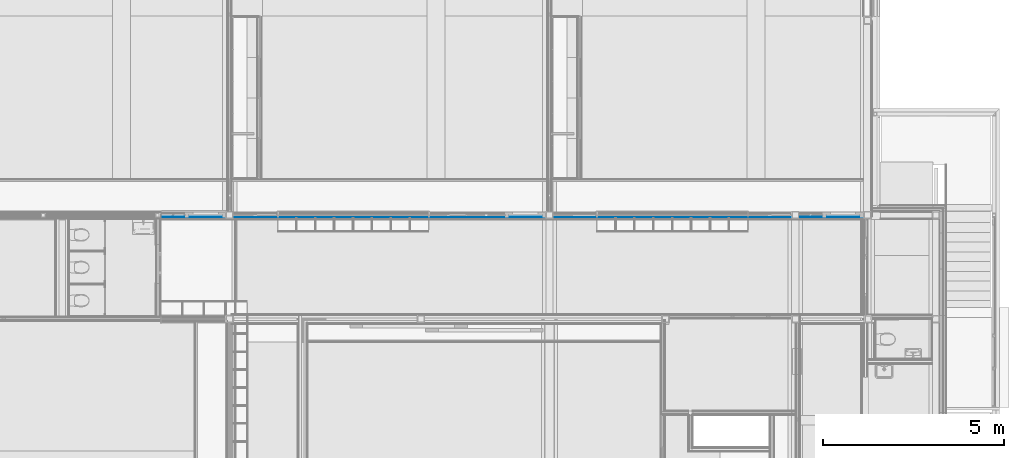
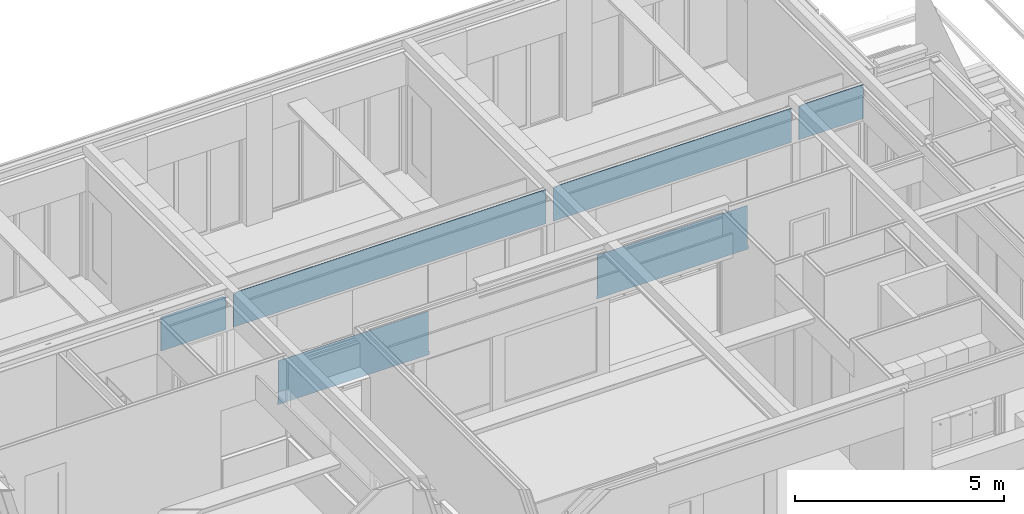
# One storey, part 33 of 165: 1 building element part, 14 openings, 1 element without a shape of its own.
"""IFC2X3 building model written with IfcOpenShell, lengths in millimetres."""

from ifc_helpers import new_model, entity, si_unit, converted_unit, derived_unit, money_unit, direction, frame, origin_with_axes, place, context, subcontext, project, spatial, faceted_brep, material, type_object, element, aggregate, save


model = new_model("IFC2X3")

# Units and contexts
model_context = context("Model", 3, precision=0.01, world=origin_with_axes(), true_north=direction((0.0, 1.0)))
body_context = subcontext(model_context, "Body", "Model", "MODEL_VIEW")
ifc_project = project(units=[si_unit("LENGTHUNIT", "METRE", prefix="MILLI"), si_unit("AREAUNIT", "SQUARE_METRE"), si_unit("VOLUMEUNIT", "CUBIC_METRE"), converted_unit("PLANEANGLEUNIT", "DEGREE", entity("IfcPlaneAngleMeasure", 0.0174532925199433), si_unit("PLANEANGLEUNIT", "RADIAN"), dimensions=[0, 0, 0, 0, 0, 0, 0]), money_unit("EUR"), converted_unit("TIMEUNIT", "Year", entity("IfcTimeMeasure", 31556926.0), si_unit("TIMEUNIT", "SECOND"), dimensions=[0, 0, 1, 0, 0, 0, 0]), si_unit("MASSUNIT", "GRAM", prefix="KILO"), si_unit("THERMODYNAMICTEMPERATUREUNIT", "DEGREE_CELSIUS"), si_unit("LUMINOUSINTENSITYUNIT", "LUMEN"), si_unit("ENERGYUNIT", "JOULE", prefix="MEGA"), derived_unit("THERMALCONDUCTANCEUNIT", [(si_unit("POWERUNIT", "WATT"), 1), (si_unit("LENGTHUNIT", "METRE"), -1), (si_unit("THERMODYNAMICTEMPERATUREUNIT", "KELVIN"), -1)]), derived_unit("SPECIFICHEATCAPACITYUNIT", [(si_unit("ENERGYUNIT", "JOULE"), 1), (si_unit("MASSUNIT", "GRAM", prefix="KILO"), -1), (si_unit("THERMODYNAMICTEMPERATUREUNIT", "KELVIN"), -1)]), derived_unit("MASSDENSITYUNIT", [(si_unit("MASSUNIT", "GRAM", prefix="KILO"), 1), (si_unit("VOLUMEUNIT", "CUBIC_METRE"), -1)])], contexts=[model_context])

# Site, building, storey
site_placement = place(None, origin_with_axes())
site = spatial("IfcSite", under=ifc_project, at=site_placement, Name="Site", CompositionType="ELEMENT")
building_placement = place(site_placement, origin_with_axes())
building = spatial("IfcBuilding", under=site, at=building_placement, Name="Naam gebouw", CompositionType="ELEMENT")
storey_placement = place(building_placement, origin_with_axes())
storey = spatial("IfcBuildingStorey", under=building, at=storey_placement, Name="Begane grond", CompositionType="ELEMENT", Elevation=0.0)

# Proxy, openings, building element part
building_element_proxy_type = type_object("IfcBuildingElementProxyType", Name="22 Metal stud 125 gips 125", PredefinedType="NOTDEFINED")
proxy_placement = place(storey_placement, frame((6940.0, 22324.99474661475, -100.0), z_axis=(0.0, 0.0, 1.0), x_axis=(0.9999999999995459, -9.530261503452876e-07, 0.0)))
proxy = element("IfcBuildingElementProxy", 1, at=proxy_placement, inside=storey, type_object=building_element_proxy_type, Name="_Wand-x")
opening_1_placement = place(proxy_placement, frame((11459.99904000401, 0.0, 100.0), z_axis=(0.0, 0.0, 1.0), x_axis=(1.0, 0.0, 0.0)))
element("IfcOpeningElement", 2, at=opening_1_placement, cuts=proxy, Name="_B.01", context=body_context, shape_type="Brep", body=[
    faceted_brep([(600.0000000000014, -12.50000000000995, -100.0000000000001), (600.0000000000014, -12.50000000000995, 2600.0), (600.0000000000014, -63.51853254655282, 2600.0), (600.0000000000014, -63.51853254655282, -100.0000000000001), (600.0000000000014, 63.51853254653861, -100.0000000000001), (600.0000000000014, 63.51853254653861, 2600.0), (-599.9999999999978, -12.50000000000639, 2600.0), (-599.9999999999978, -63.51853254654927, 2600.0), (-600.0000000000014, 63.51853254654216, 2600.0), (-599.9999999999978, -63.51853254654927, -100.0000000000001), (-599.9999999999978, -12.50000000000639, -100.0000000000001), (-600.0000000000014, 63.51853254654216, -100.0000000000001)], [[[0, 1, 2, 3]], [[1, 0, 4, 5]], [[6, 7, 2, 1, 5, 8]], [[7, 9, 3, 2]], [[0, 3, 9, 10, 11, 4]], [[5, 4, 11, 8]], [[6, 10, 9, 7]], [[10, 6, 8, 11]]]),
])
opening_2_placement = place(proxy_placement, frame((7954.999824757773, 0.0, 100.0), z_axis=(0.0, 0.0, 1.0), x_axis=(1.0, 0.0, 0.0)))
element("IfcOpeningElement", 3, at=opening_2_placement, cuts=proxy, Name="_B.06", context=body_context, shape_type="Brep", body=[
    faceted_brep([(524.9998247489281, -12.50000000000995, -100.0000000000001), (524.9998247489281, -12.50000000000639, 2600.0), (524.9998247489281, -63.51853254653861, 2600.0), (524.9998247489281, -63.51853254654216, -100.0000000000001), (524.9998247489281, 63.5185325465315, -100.0000000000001), (524.9998247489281, 63.51853254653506, 2600.0), (-524.9998247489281, -12.50000000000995, 2600.0), (-524.9998247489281, -63.51853254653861, 2600.0), (-524.9998247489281, 63.51853254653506, 2600.0), (-524.9998247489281, -63.51853254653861, -100.0000000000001), (-524.9998247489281, -12.50000000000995, -100.0000000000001), (-524.9998247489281, 63.51853254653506, -100.0000000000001)], [[[0, 1, 2, 3]], [[1, 0, 4, 5]], [[6, 7, 2, 1, 5, 8]], [[7, 9, 3, 2]], [[0, 3, 9, 10, 11, 4]], [[5, 4, 11, 8]], [[6, 10, 9, 7]], [[10, 6, 8, 11]]]),
])
opening_3_placement = place(proxy_placement, frame((16859.99904000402, 0.0, 100.0), z_axis=(0.0, 0.0, 1.0), x_axis=(1.0, 0.0, 0.0)))
element("IfcOpeningElement", 4, at=opening_3_placement, cuts=proxy, Name="_B.01", context=body_context, shape_type="Brep", body=[
    faceted_brep([(599.9999999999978, -12.50000000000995, -100.0000000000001), (599.9999999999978, -12.50000000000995, 2600.0), (599.9999999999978, -63.51853254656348, 2600.0), (599.9999999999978, -63.51853254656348, -100.0000000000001), (599.9999999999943, 63.5185325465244, -100.0000000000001), (599.9999999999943, 63.5185325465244, 2600.0), (-600.0000000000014, -12.50000000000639, 2600.0), (-600.0000000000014, -63.51853254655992, 2600.0), (-600.0000000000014, 63.51853254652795, 2600.0), (-600.0000000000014, -63.51853254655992, -100.0000000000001), (-600.0000000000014, -12.50000000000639, -100.0000000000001), (-600.0000000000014, 63.51853254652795, -100.0000000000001)], [[[0, 1, 2, 3]], [[1, 0, 4, 5]], [[6, 7, 2, 1, 5, 8]], [[7, 9, 3, 2]], [[0, 3, 9, 10, 11, 4]], [[5, 4, 11, 8]], [[6, 10, 9, 7]], [[10, 6, 8, 11]]]),
])
opening_4_placement = place(proxy_placement, frame((13109.999040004, 0.0, 1300.0), z_axis=(0.0, 0.0, 1.0), x_axis=(1.0, 0.0, 0.0)))
element("IfcOpeningElement", 5, at=opening_4_placement, cuts=proxy, Name="_C.01", context=body_context, shape_type="Brep", body=[
    faceted_brep([(1049.999999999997, -12.50000000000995, 0.0), (1049.999999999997, -12.50000000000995, 1400.0), (1049.999999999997, -63.51853254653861, 1400.0), (1049.999999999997, -63.51853254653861, 0.0), (1049.999999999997, 63.51853254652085, 0.0), (1049.999999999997, 63.51853254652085, 1400.0), (-1049.99999999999, -12.50000000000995, 1400.0), (-1049.999999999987, -63.51853254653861, 1400.0), (-1049.99999999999, 63.5185325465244, 1400.0), (-1049.999999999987, -63.51853254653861, 0.0), (-1049.99999999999, -12.50000000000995, 0.0), (-1049.99999999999, 63.5185325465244, 0.0)], [[[0, 1, 2, 3]], [[1, 0, 4, 5]], [[6, 7, 2, 1, 5, 8]], [[7, 9, 3, 2]], [[0, 3, 9, 10, 11, 4]], [[5, 4, 11, 8]], [[6, 10, 9, 7]], [[10, 6, 8, 11]]]),
])
opening_5_placement = place(proxy_placement, frame((15209.99904000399, 0.0, 1300.000000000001), z_axis=(0.0, 0.0, 1.0), x_axis=(1.0, 0.0, 0.0)))
element("IfcOpeningElement", 6, at=opening_5_placement, cuts=proxy, Name="_C.01", context=body_context, shape_type="Brep", body=[
    faceted_brep([(1050.000000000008, -12.5000000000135, 0.0), (1050.000000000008, -12.5000000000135, 1400.0), (1050.000000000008, -63.51853254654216, 1400.0), (1050.000000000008, -63.51853254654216, 0.0), (1050.000000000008, 63.51853254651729, 0.0), (1050.000000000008, 63.51853254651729, 1400.0), (-1050.000000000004, -12.50000000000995, 1400.0), (-1050.000000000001, -63.51853254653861, 1400.0), (-1050.000000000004, 63.51853254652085, 1400.0), (-1050.000000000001, -63.51853254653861, 0.0), (-1050.000000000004, -12.50000000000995, 0.0), (-1050.000000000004, 63.51853254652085, 0.0)], [[[0, 1, 2, 3]], [[1, 0, 4, 5]], [[6, 7, 2, 1, 5, 8]], [[7, 9, 3, 2]], [[0, 3, 9, 10, 11, 4]], [[5, 4, 11, 8]], [[6, 10, 9, 7]], [[10, 6, 8, 11]]]),
])
opening_6_placement = place(proxy_placement, frame((2620.000000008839, 0.0, 100.0), z_axis=(0.0, 0.0, 1.0), x_axis=(1.0, 0.0, 0.0)))
element("IfcOpeningElement", 7, at=opening_6_placement, cuts=proxy, Name="_B.03", context=body_context, shape_type="Brep", body=[
    faceted_brep([(610.0000000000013, -12.50000000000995, -100.0000000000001), (610.0000000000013, -12.50000000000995, 2600.0), (610.0000000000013, -63.51853254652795, 2600.0), (610.0000000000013, -63.51853254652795, -100.0000000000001), (610.0000000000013, 63.51853254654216, -100.0000000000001), (610.0000000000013, 63.51853254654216, 2600.0), (-610.0000000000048, -12.50000000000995, 2600.0), (-610.0000000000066, -63.51853254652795, 2600.0), (-610.0000000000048, 63.51853254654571, 2600.0), (-610.0000000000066, -63.51853254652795, -100.0000000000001), (-610.0000000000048, -12.50000000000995, -100.0000000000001), (-610.0000000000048, 63.51853254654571, -100.0000000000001)], [[[0, 1, 2, 3]], [[1, 0, 4, 5]], [[6, 7, 2, 1, 5, 8]], [[7, 9, 3, 2]], [[0, 3, 9, 10, 11, 4]], [[5, 4, 11, 8]], [[6, 10, 9, 7]], [[10, 6, 8, 11]]]),
])
opening_7_placement = place(proxy_placement, frame((4280.000000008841, 0.0, 1300.0), z_axis=(0.0, 0.0, 1.0), x_axis=(1.0, 0.0, 0.0)))
element("IfcOpeningElement", 8, at=opening_7_placement, cuts=proxy, Name="_C.01", context=body_context, shape_type="Brep", body=[
    faceted_brep([(1049.999999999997, -12.50000000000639, 0.0), (1049.999999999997, -12.50000000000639, 1400.0), (1049.999999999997, -63.5185325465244, 1400.0), (1049.999999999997, -63.5185325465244, 0.0), (1049.999999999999, 63.51853254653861, 0.0), (1049.999999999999, 63.51853254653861, 1400.0), (-1049.999999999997, -12.50000000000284, 1400.0), (-1049.999999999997, -63.51853254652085, 1400.0), (-1049.999999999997, 63.51853254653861, 1400.0), (-1049.999999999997, -63.51853254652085, 0.0), (-1049.999999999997, -12.50000000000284, 0.0), (-1049.999999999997, 63.51853254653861, 0.0)], [[[0, 1, 2, 3]], [[1, 0, 4, 5]], [[6, 7, 2, 1, 5, 8]], [[7, 9, 3, 2]], [[0, 3, 9, 10, 11, 4]], [[5, 4, 11, 8]], [[6, 10, 9, 7]], [[10, 6, 8, 11]]]),
])
opening_8_placement = place(proxy_placement, frame((9004.999474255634, 0.0, 100.0), z_axis=(0.0, 0.0, 1.0), x_axis=(1.0, 0.0, 0.0)))
element("IfcOpeningElement", 9, at=opening_8_placement, cuts=proxy, Name="_B.06", context=body_context, shape_type="Brep", body=[
    faceted_brep([(524.9998247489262, -12.50000000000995, -100.0000000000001), (524.9998247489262, -12.50000000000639, 2600.0), (524.9998247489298, -63.51853254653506, 2600.0), (524.9998247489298, -63.51853254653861, -100.0000000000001), (524.9998247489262, 63.51853254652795, -100.0000000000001), (524.9998247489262, 63.5185325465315, 2600.0), (-524.9998247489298, -12.50000000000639, 2600.0), (-524.9998247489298, -63.51853254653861, 2600.0), (-524.9998247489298, 63.5185325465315, 2600.0), (-524.9998247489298, -63.51853254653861, -100.0000000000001), (-524.9998247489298, -12.50000000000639, -100.0000000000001), (-524.9998247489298, 63.5185325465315, -100.0000000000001)], [[[0, 1, 2, 3]], [[1, 0, 4, 5]], [[6, 7, 2, 1, 5, 8]], [[7, 9, 3, 2]], [[0, 3, 9, 10, 11, 4]], [[5, 4, 11, 8]], [[6, 10, 9, 7]], [[10, 6, 8, 11]]]),
])
opening_9_placement = place(proxy_placement, frame((17987.99955956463, 0.0, 100.0), z_axis=(0.0, 0.0, 1.0), x_axis=(1.0, 0.0, 0.0)))
element("IfcOpeningElement", 10, at=opening_9_placement, cuts=proxy, Name="_B.09", context=body_context, shape_type="Brep", body=[
    faceted_brep([(-328.0004950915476, 12.49999999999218, -100.0000000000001), (-328.0004950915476, 12.49999999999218, 2600.0), (-328.0004950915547, 63.51853254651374, 2600.0), (-328.0004950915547, 63.51853254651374, -100.0000000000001), (-328.0004950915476, -63.51853254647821, -100.0000000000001), (-328.0004950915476, -63.51853254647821, 2600.0), (328.0004950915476, 12.49999999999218, 2600.0), (328.0004950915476, 63.51853254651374, 2600.0), (328.0004950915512, -63.51853254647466, 2600.0), (328.0004950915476, 63.51853254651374, -100.0000000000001), (328.0004950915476, 12.49999999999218, -100.0000000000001), (328.0004950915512, -63.51853254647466, -100.0000000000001)], [[[0, 1, 2, 3]], [[1, 0, 4, 5]], [[6, 7, 2, 1, 5, 8]], [[7, 9, 3, 2]], [[0, 3, 9, 10, 11, 4]], [[5, 4, 11, 8]], [[6, 10, 9, 7]], [[10, 6, 8, 11]]]),
])
opening_10_placement = place(proxy_placement, frame((18881.00000000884, 0.0, 100.0), z_axis=(0.0, 0.0, 1.0), x_axis=(1.0, 0.0, 0.0)))
element("IfcOpeningElement", 11, at=opening_10_placement, cuts=proxy, Name="_01.01", context=body_context, shape_type="Brep", body=[
    faceted_brep([(-564.9999999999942, -63.51853254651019, 2600.0), (-564.9999999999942, -63.51853254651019, -100.0000000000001), (565.0000000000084, -63.51853254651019, -100.0000000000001), (565.0000000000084, -63.51853254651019, 2600.0), (-564.9999999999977, 63.51853254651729, 2600.0), (-564.9999999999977, 63.51853254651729, -100.0000000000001), (565.0000000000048, 63.51853254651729, -100.0000000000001), (565.0000000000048, 63.51853254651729, 2600.0)], [[[0, 1, 2, 3]], [[4, 5, 1, 0]], [[5, 6, 2, 1]], [[6, 7, 3, 2]], [[7, 4, 0, 3]], [[6, 5, 4, 7]]]),
])
opening_11_placement = place(proxy_placement, frame((10094.99953887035, 0.0, 100.0), z_axis=(0.0, 0.0, 1.0), x_axis=(1.0, 0.0, 0.0)))
element("IfcOpeningElement", 12, at=opening_11_placement, cuts=proxy, Name="_01.01", context=body_context, shape_type="Brep", body=[
    faceted_brep([(-564.9999999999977, -63.51853254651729, 2600.0), (-564.9999999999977, -63.51853254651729, -100.0000000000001), (565.0000000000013, -63.51853254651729, -100.0000000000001), (565.0000000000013, -63.51853254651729, 2600.0), (-565.0000000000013, 63.51853254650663, 2600.0), (-565.0000000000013, 63.51853254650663, -100.0000000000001), (565.0000000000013, 63.51853254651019, -100.0000000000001), (565.0000000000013, 63.51853254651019, 2600.0)], [[[0, 1, 2, 3]], [[4, 5, 1, 0]], [[5, 6, 2, 1]], [[6, 7, 3, 2]], [[7, 4, 0, 3]], [[6, 5, 4, 7]]]),
])
opening_12_placement = place(proxy_placement, frame((6380.000000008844, 0.0, 1300.0), z_axis=(0.0, 0.0, 1.0), x_axis=(1.0, 0.0, 0.0)))
element("IfcOpeningElement", 13, at=opening_12_placement, cuts=proxy, Name="_C.01", context=body_context, shape_type="Brep", body=[
    faceted_brep([(1050.000000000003, -12.50000000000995, 0.0), (1050.000000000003, -12.50000000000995, 1400.0), (1050.000000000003, -63.51853254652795, 1400.0), (1050.000000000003, -63.51853254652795, 0.0), (1050.000000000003, 63.51853254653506, 0.0), (1050.000000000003, 63.51853254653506, 1400.0), (-1050.000000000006, -12.50000000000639, 1400.0), (-1050.000000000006, -63.5185325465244, 1400.0), (-1050.000000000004, 63.51853254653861, 1400.0), (-1050.000000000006, -63.5185325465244, 0.0), (-1050.000000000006, -12.50000000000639, 0.0), (-1050.000000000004, 63.51853254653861, 0.0)], [[[0, 1, 2, 3]], [[1, 0, 4, 5]], [[6, 7, 2, 1, 5, 8]], [[7, 9, 3, 2]], [[0, 3, 9, 10, 11, 4]], [[5, 4, 11, 8]], [[6, 10, 9, 7]], [[10, 6, 8, 11]]]),
])
opening_13_placement = place(proxy_placement, frame((1245.000071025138, 0.0, 100.0), z_axis=(0.0, 0.0, 1.0), x_axis=(1.0, 0.0, 0.0)))
element("IfcOpeningElement", 14, at=opening_13_placement, cuts=proxy, Name="_01.01", context=body_context, shape_type="Brep", body=[
    faceted_brep([(-565.0000000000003, -63.51853254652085, 2600.0), (-565.0000000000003, -63.51853254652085, -100.0000000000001), (564.9999999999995, -63.51853254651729, -100.0000000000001), (564.9999999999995, -63.51853254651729, 2600.0), (-565.0000000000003, 63.51853254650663, 2600.0), (-565.0000000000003, 63.51853254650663, -100.0000000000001), (564.9999999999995, 63.51853254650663, -100.0000000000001), (564.9999999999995, 63.51853254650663, 2600.0)], [[[0, 1, 2, 3]], [[4, 5, 1, 0]], [[5, 6, 2, 1]], [[6, 7, 3, 2]], [[7, 4, 0, 3]], [[6, 5, 4, 7]]]),
])
opening_14_placement = place(proxy_placement, frame((340.0001105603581, 0.0, 100.0), z_axis=(0.0, 0.0, 1.0), x_axis=(1.0, 0.0, 0.0)))
element("IfcOpeningElement", 15, at=opening_14_placement, cuts=proxy, Name="_B.07", context=body_context, shape_type="Brep", body=[
    faceted_brep([(-339.9999604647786, 12.49999999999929, -100.0000000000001), (-339.9999604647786, 12.49999999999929, 2600.0), (-339.9999604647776, 63.51853254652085, 2600.0), (-339.9999604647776, 63.51853254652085, -100.0000000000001), (-339.9999604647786, -63.51853254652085, -100.0000000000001), (-339.9999604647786, -63.51853254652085, 2600.0), (339.9999604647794, 12.49999999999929, 2600.0), (339.9999604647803, 63.51853254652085, 2600.0), (339.9999604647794, -63.5185325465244, 2600.0), (339.9999604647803, 63.51853254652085, -100.0000000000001), (339.9999604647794, 12.49999999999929, -100.0000000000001), (339.9999604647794, -63.5185325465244, -100.0000000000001)], [[[0, 1, 2, 3]], [[1, 0, 4, 5]], [[6, 7, 2, 1, 5, 8]], [[7, 9, 3, 2]], [[0, 3, 9, 10, 11, 4]], [[5, 4, 11, 8]], [[6, 10, 9, 7]], [[10, 6, 8, 11]]]),
])
ifc_material = material(Name="Gipsplaat")
building_element_part_placement = place(proxy_placement, origin_with_axes())
building_element_part = element("IfcBuildingElementPart", 16, at=building_element_part_placement, material=ifc_material, Name="Gipsplaat", context=body_context, shape_type="Brep", body=[
    faceted_brep([(7410.000035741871, -37.499999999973, 1280.000000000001), (7410.000035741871, -37.50000000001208, 100.0), (7430.000035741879, -37.49999999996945, 100.0), (7430.000000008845, -37.50000000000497, 0.0), (3230.000000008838, -37.50000000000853, 0.0), (3229.99984515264, -37.49999999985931, 100.0), (3249.999845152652, -37.50000000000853, 100.0), (3249.999845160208, -37.50000000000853, 1280.000000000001), (7410.000047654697, -49.99999999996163, 1280.000000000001), (7410.000047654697, -49.99999999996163, 100.0), (7430.000047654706, -49.99999999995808, 100.0), (7430.000000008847, -50.00000000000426, 0.0), (3230.000000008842, -50.00000000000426, 0.0), (3229.999833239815, -49.99999999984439, 100.0), (3249.999833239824, -50.00000000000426, 100.0), (3249.99983324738, -50.00000000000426, 1280.000000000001)], [[[0, 1, 2, 3, 4, 5, 6, 7]], [[1, 0, 8, 9]], [[10, 2, 1, 9]], [[2, 10, 11, 3]], [[11, 12, 4, 3]], [[4, 12, 13, 5]], [[13, 14, 6, 5]], [[14, 15, 7, 6]], [[8, 0, 7, 15]], [[9, 8, 15, 14, 13, 12, 11, 10]]]),
    faceted_brep([(10659.99947222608, -50.00000000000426, 3675.000002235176), (10659.99953887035, -50.00000000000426, 2700.0), (10659.99953887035, -37.50000000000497, 2700.0), (10659.99946031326, -37.50000000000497, 3675.000002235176), (2010.000000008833, -50.00000000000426, 2700.0), (10559.99947222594, -50.00000000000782, 3675.000002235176), (10559.99947222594, -50.00000000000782, 3695.000002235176), (10656.99947222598, -50.00000000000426, 3695.000002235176), (10656.99947222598, -50.00000000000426, 3700.0), (2013.000047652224, -50.00000000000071, 3700.0), (2013.000047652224, -50.00000000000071, 3695.000002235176), (2110.00004765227, -50.00000000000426, 3695.000002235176), (2110.00004765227, -50.00000000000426, 3670.000002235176), (2010.000047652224, -50.00000000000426, 3670.000002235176), (2010.000000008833, -37.50000000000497, 2700.0), (2010.000035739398, -37.50000000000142, 3670.000002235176), (2110.000035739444, -37.50000000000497, 3670.000002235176), (2110.000035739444, -37.50000000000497, 3695.000002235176), (2013.000035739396, -37.49999999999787, 3695.000002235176), (2013.000035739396, -37.50000000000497, 3700.0), (10656.99946031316, -37.50000000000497, 3700.0), (10656.99946031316, -37.50000000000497, 3695.000002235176), (10559.99946031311, -37.50000000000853, 3695.000002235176), (10559.99946031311, -37.50000000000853, 3675.000002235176)], [[[0, 1, 2, 3]], [[4, 1, 0, 5, 6, 7, 8, 9, 10, 11, 12, 13]], [[14, 2, 1, 4]], [[3, 2, 14, 15, 16, 17, 18, 19, 20, 21, 22, 23]], [[3, 23, 5, 0]], [[23, 22, 6, 5]], [[22, 21, 7, 6]], [[21, 20, 8, 7]], [[8, 20, 19, 9]], [[9, 19, 18, 10]], [[18, 17, 11, 10]], [[17, 16, 12, 11]], [[13, 12, 16, 15]], [[15, 14, 4, 13]]]),
    faceted_brep([(12059.99894470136, -37.49999999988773, 100.0), (12079.99894470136, -37.49999999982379, 100.0), (12079.99894470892, -37.49999999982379, 1280.000000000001), (16239.99913530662, -37.50000000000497, 1280.000000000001), (16239.99913530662, -37.50000000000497, 100.0), (16259.99913530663, -37.49999999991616, 100.0), (16259.99904000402, -37.50000000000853, 0.0), (12059.99904000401, -37.50000000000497, 0.0), (12059.99893278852, -49.99999999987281, 100.0), (12079.99893278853, -50.00000000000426, 100.0), (12079.99893279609, -49.99999999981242, 1280.000000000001), (16239.99914721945, -50.00000000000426, 1280.000000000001), (16239.99914721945, -50.00000000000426, 100.0), (16259.99914721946, -49.99999999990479, 100.0), (16259.99904000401, -50.00000000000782, 0.0), (12059.999040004, -50.00000000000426, 0.0)], [[[0, 1, 2, 3, 4, 5, 6, 7]], [[1, 0, 8, 9]], [[10, 2, 1, 9]], [[2, 10, 11, 3]], [[4, 3, 11, 12]], [[4, 12, 13, 5]], [[14, 6, 5, 13]], [[14, 15, 7, 6]], [[8, 0, 7, 15]], [[9, 8, 15, 14, 13, 12, 11, 10]]]),
    faceted_brep([(17459.99904000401, -50.00000000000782, 2700.0), (10859.99904000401, -50.00000000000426, 2700.0), (10859.99904000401, -37.50000000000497, 2700.0), (17459.99904000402, -37.50000000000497, 2700.0), (17459.99908765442, -50.00000000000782, 3680.000029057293), (17359.99908765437, -50.00000000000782, 3680.000029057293), (17359.99908765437, -50.00000000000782, 3695.000029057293), (17458.99908765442, -50.00000000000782, 3695.000029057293), (17458.99908765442, -50.00000000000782, 3700.0), (10862.99947222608, -50.00000000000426, 3700.0), (10862.99947222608, -50.00000000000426, 3695.000002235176), (10959.99947222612, -50.00000000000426, 3695.000002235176), (10959.99947222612, -50.00000000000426, 3675.000002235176), (10859.99947222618, -50.00000000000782, 3675.000002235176), (10859.99946031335, -37.50000000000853, 3675.000002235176), (10959.99946031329, -37.50000000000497, 3675.000002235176), (10959.99946031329, -37.50000000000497, 3695.000002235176), (10862.99946031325, -37.50000000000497, 3695.000002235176), (10862.99946031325, -37.50000000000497, 3700.0), (17458.99907574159, -37.50000000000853, 3700.0), (17458.99907574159, -37.50000000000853, 3695.000029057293), (17359.99907574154, -37.50000000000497, 3695.000029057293), (17359.99907574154, -37.50000000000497, 3680.000029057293), (17459.99907574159, -37.50000000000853, 3680.000029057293)], [[[0, 1, 2, 3]], [[1, 0, 4, 5, 6, 7, 8, 9, 10, 11, 12, 13]], [[1, 13, 14, 2]], [[3, 2, 14, 15, 16, 17, 18, 19, 20, 21, 22, 23]], [[23, 4, 0, 3]], [[5, 4, 23, 22]], [[6, 5, 22, 21]], [[7, 6, 21, 20]], [[8, 7, 20, 19]], [[8, 19, 18, 9]], [[17, 10, 9, 18]], [[11, 10, 17, 16]], [[12, 11, 16, 15]], [[15, 14, 13, 12]]]),
    faceted_brep([(1810.000071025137, -50.00000000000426, 2700.0), (1810.000071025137, -37.50000000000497, 2700.0), (1810.000035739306, -37.50000000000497, 3670.000002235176), (1810.000047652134, -50.00000000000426, 3670.000002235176), (680.0000710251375, -37.50000000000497, 2700.0), (680.0000710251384, -50.00000000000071, 2700.0), (0.000150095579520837, -50.00000000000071, 2700.0), (0.000150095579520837, -37.50000000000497, 2700.0), (0.0, -37.50000000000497, 3700.0), (1807.000035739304, -37.50000000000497, 3700.0), (1807.000035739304, -37.50000000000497, 3695.000002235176), (1710.000035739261, -37.50000000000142, 3695.000002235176), (1710.000035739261, -37.50000000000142, 3670.000002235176), (1710.000047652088, -50.00000000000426, 3670.000002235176), (1710.000047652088, -50.00000000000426, 3695.000002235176), (1807.000047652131, -50.00000000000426, 3695.000002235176), (1807.000047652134, -50.00000000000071, 3700.0), (0.0, -50.00000000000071, 3700.0)], [[[0, 1, 2, 3]], [[4, 1, 0, 5, 6, 7]], [[1, 4, 7, 8, 9, 10, 11, 12, 2]], [[12, 13, 3, 2]], [[5, 0, 3, 13, 14, 15, 16, 17, 6]], [[6, 17, 8, 7]], [[9, 8, 17, 16]], [[9, 16, 15, 10]], [[10, 15, 14, 11]], [[11, 14, 13, 12]]]),
    faceted_brep([(19446.00000000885, -50.00000000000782, 2700.0), (19446.00000000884, -37.50000000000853, 2700.0), (19446.00000000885, -37.50000000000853, 3393.0), (19446.00000000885, -50.00000000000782, 3393.0), (18316.00000000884, -37.50000000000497, 2700.0), (18316.00000000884, -50.00000000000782, 2700.0), (17659.99906447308, -50.00000000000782, 2700.0), (17659.99906447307, -37.50000000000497, 2700.0), (17659.99907574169, -37.50000000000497, 3680.000029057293), (17759.99907574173, -37.50000000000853, 3680.000029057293), (17759.99907574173, -37.50000000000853, 3695.000029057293), (17660.99907574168, -37.50000000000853, 3695.000029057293), (17660.99907574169, -37.50000000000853, 3700.0), (19446.00000000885, -37.50000000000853, 3700.0), (19446.00000000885, -37.50000000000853, 3695.0), (19361.00003127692, -37.50000000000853, 3695.0), (19361.00003127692, -37.50000000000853, 3683.0), (19446.00000000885, -37.50000000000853, 3683.0), (19446.00000000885, -37.50000000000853, 3405.0), (19444.00003574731, -37.50000000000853, 3405.0), (19444.00003574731, -37.50000000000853, 3393.0), (19444.00004766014, -50.00000000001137, 3393.0), (19444.00004766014, -50.00000000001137, 3405.0), (19446.00000000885, -50.00000000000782, 3405.0), (19446.00000000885, -50.00000000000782, 3683.0), (19361.00004318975, -50.00000000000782, 3683.0), (19361.00004318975, -50.00000000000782, 3695.0), (19446.00000000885, -50.00000000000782, 3695.0), (19446.00000000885, -50.00000000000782, 3700.0), (17660.99908765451, -50.00000000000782, 3700.0), (17660.99908765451, -50.00000000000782, 3695.000029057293), (17759.99908765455, -50.00000000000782, 3695.000029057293), (17759.99908765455, -50.00000000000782, 3680.000029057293), (17659.99908765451, -50.00000000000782, 3680.000029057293)], [[[0, 1, 2, 3]], [[4, 1, 0, 5, 6, 7]], [[1, 4, 7, 8, 9, 10, 11, 12, 13, 14, 15, 16, 17, 18, 19, 20, 2]], [[2, 20, 21, 3]], [[5, 0, 3, 21, 22, 23, 24, 25, 26, 27, 28, 29, 30, 31, 32, 33, 6]], [[6, 33, 8, 7]], [[32, 9, 8, 33]], [[9, 32, 31, 10]], [[10, 31, 30, 11]], [[12, 11, 30, 29]], [[29, 28, 13, 12]], [[14, 13, 28, 27]], [[14, 27, 26, 15]], [[15, 26, 25, 16]], [[17, 16, 25, 24]], [[24, 23, 18, 17]], [[18, 23, 22, 19]], [[19, 22, 21, 20]]]),
])
aggregate(proxy, [building_element_part])

save(model, "model.ifc")
